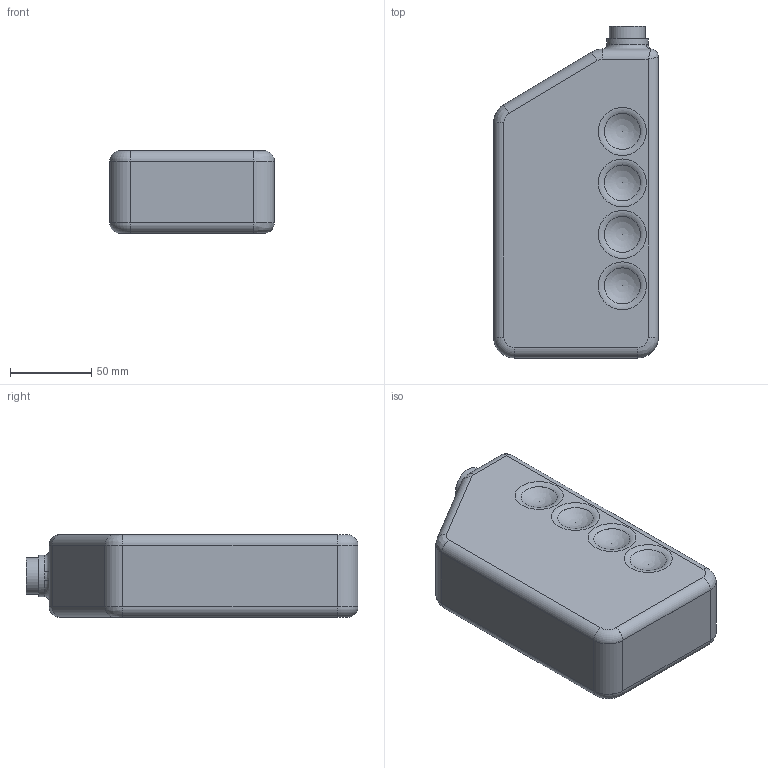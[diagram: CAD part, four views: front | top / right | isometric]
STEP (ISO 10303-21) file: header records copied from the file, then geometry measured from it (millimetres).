
FILE_DESCRIPTION((''),'2;1');
FILE_NAME('C:\My Documents\B2 Design\Skill Builders\Measured Volume\Models\PlasticBottle.stp','2010-03-30T14:38:18',('boganb'),(''),'Autodesk Inventor 2011','Autodesk Inventor 2011','');
FILE_SCHEMA(('AUTOMOTIVE_DESIGN { 1 0 10303 214 1 1 1 1 }'));
Length unit declared in the file: inch
Products named in the file (1): PlasticBottle
Bounding box: 101.6 x 204.79 x 50.8 mm (x, y, z)
Volume: 38800.9 mm3; surface area: 122251.4 mm2
Topology: 1 solids, 1 shells, 113 faces, 276 edges, 164 vertices
Faces by surface type: cylinder 34, torus 30, plane 19, sphere 16, bspline 14
Full cylindrical faces by diameter (mm): 20.955 x1, 22.225 x1, 24.13 x1, 25.4 x1
Entity records: 3243 total; most frequent: CARTESIAN_POINT 868, DIRECTION 524, ORIENTED_EDGE 404, AXIS2_PLACEMENT_3D 230, EDGE_CURVE 202, EDGE_LOOP 152, VERTEX_POINT 130, CIRCLE 122
